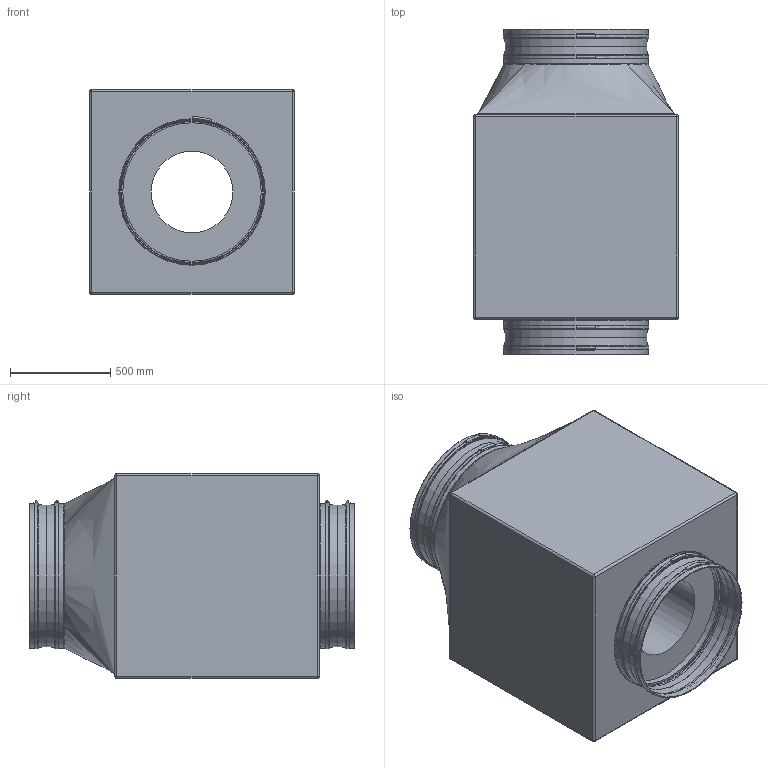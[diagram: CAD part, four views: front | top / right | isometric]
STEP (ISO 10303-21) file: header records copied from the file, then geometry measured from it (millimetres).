
FILE_DESCRIPTION(/* description */ (''),/* implementation_level */ '2;1');
FILE_NAME(/* name */ 'Z:\Output\GBD 710_6_6_Axial-05525-004.stp',/* time_stamp */ '2017-05-09T00:01:11+02:00',/* author */ ('jayeshpanchal'),/* organization */ (''),/* preprocessor_version */ 'ST-DEVELOPER v16.5',/* originating_system */ 'Autodesk Inventor 2017',/* authorisation */ '');
FILE_SCHEMA (('AUTOMOTIVE_DESIGN { 1 0 10303 214 3 1 1 }'));
Length unit declared in the file: millimetre
Products named in the file (1): GB-1
Bounding box: 1020 x 1620 x 1020 mm (x, y, z)
Volume: 935994260.7 mm3; surface area: 11145189.1 mm2
Topology: 7 solids, 7 shells, 121 faces, 228 edges, 134 vertices
Faces by surface type: cylinder 46, plane 43, bspline 12, cone 8, sphere 8, torus 4
Full cylindrical faces by diameter (mm): 408 x1, 690 x1, 710 x2, 711 x8, 720 x1, 721 x8, 727 x4, 730 x1
Entity records: 3393 total; most frequent: CARTESIAN_POINT 1036, DIRECTION 514, ORIENTED_EDGE 398, AXIS2_PLACEMENT_3D 225, EDGE_CURVE 191, EDGE_LOOP 182, VERTEX_POINT 131, FACE_OUTER_BOUND 121
